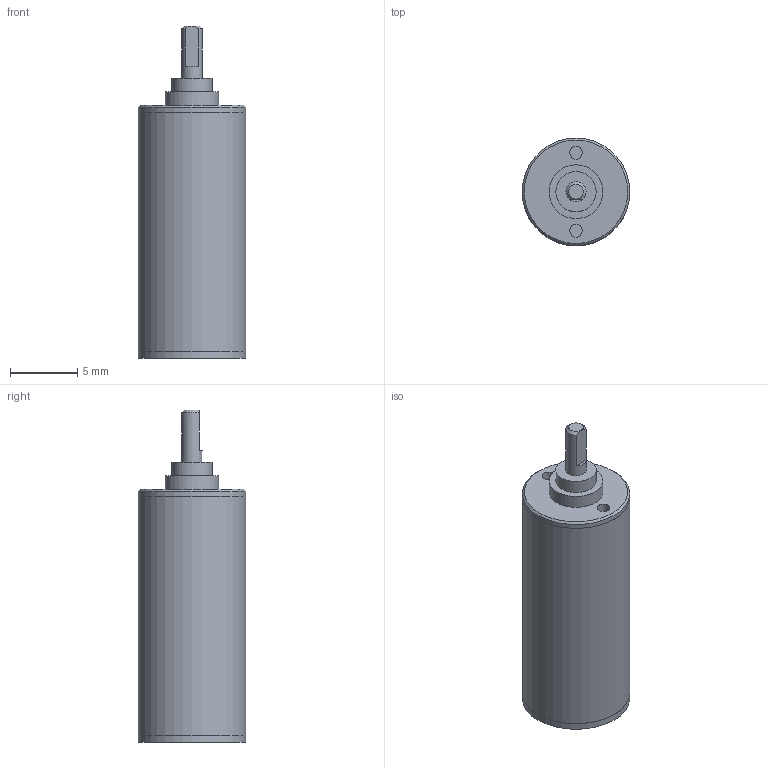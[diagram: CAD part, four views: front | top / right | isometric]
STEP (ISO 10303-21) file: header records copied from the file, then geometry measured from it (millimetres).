
FILE_DESCRIPTION(/* description */ (''),/* implementation_level */ '2;1');
FILE_NAME(/* name */ '08-2_6.stp',/* time_stamp */ '2016-08-23T14:04:26+02:00',/* author */ ('DR. FRITZ FAULHABER GmbH & Co. KG'),/* organization */ ('DR. FRITZ FAULHABER GmbH & Co. KG'),/* preprocessor_version */ 'ST-DEVELOPER v16',/* originating_system */ 'SIEMENS PLM Software NX 10.0',/* authorisation */ '');
FILE_SCHEMA (('AUTOMOTIVE_DESIGN { 1 0 10303 214 3 1 1 1 }'));
Length unit declared in the file: millimetre
Products named in the file (1): H00000392_A
Bounding box: 8 x 8 x 24.7 mm (x, y, z)
Volume: 899.9 mm3; surface area: 680.3 mm2
Topology: 1 solids, 1 shells, 33 faces, 56 edges, 37 vertices
Faces by surface type: plane 16, cylinder 14, cone 3
Full cylindrical faces by diameter (mm): 0.95 x2, 1.5 x1, 2.13 x1, 2.53 x1, 3 x1, 4 x1, 4.959 x1, 6 x1, 7.99 x2, 8 x3
Entity records: 709 total; most frequent: DIRECTION 133, CARTESIAN_POINT 115, ORIENTED_EDGE 72, AXIS2_PLACEMENT_3D 65, EDGE_LOOP 61, FACE_BOUND 54, EDGE_CURVE 36, ADVANCED_FACE 33
